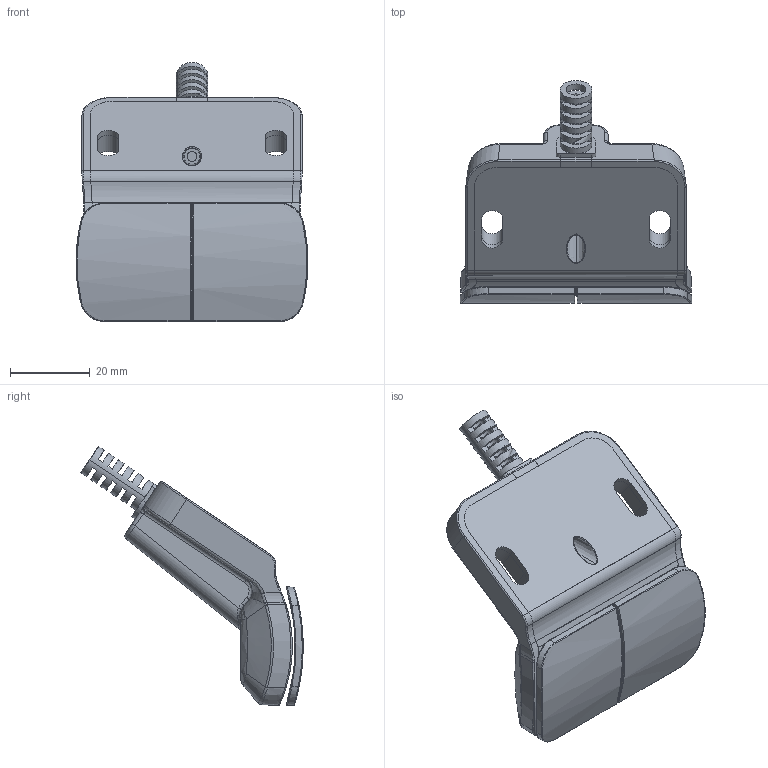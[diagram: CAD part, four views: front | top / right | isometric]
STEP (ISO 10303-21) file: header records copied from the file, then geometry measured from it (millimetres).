
FILE_DESCRIPTION((''),'2;1');
FILE_NAME('JCHT35K-0187_ASM_ASM','2021-04-08T13:04:09',('user'),('捷昌驱动'),'CREO PARAMETRIC BY PTC INC, 2018100','CREO PARAMETRIC BY PTC INC, 2018100','');
FILE_SCHEMA(('CONFIG_CONTROL_DESIGN'));
Length unit declared in the file: millimetre
Products named in the file (7): JCHT35K-0185_1; JCHT35K-0186_1; JCHT35K-0040_1; CTXK-0036_1; JCHT35K-0203_1; JCHT35K-0187_ASM_1_ASM; JCHT35K-0187_ASM_ASM
Assembly tree (6 placements, depth 3):
  JCHT35K-0187_ASM_ASM
    JCHT35K-0187_ASM_1_ASM
      JCHT35K-0185_1
      JCHT35K-0186_1
      JCHT35K-0040_1
      CTXK-0036_1
      JCHT35K-0203_1
Bounding box: 58.08 x 55.72 x 64.9 mm (x, y, z)
Volume: 35468.7 mm3; surface area: 25058.9 mm2
Topology: 5 solids, 5 shells, 372 faces, 983 edges, 614 vertices
Faces by surface type: plane 124, cylinder 100, bspline 94, cone 28, torus 14, sphere 8, extrusion 4
Entity records: 19738 total; most frequent: CARTESIAN_POINT 11162, ORIENTED_EDGE 1950, DIRECTION 1466, EDGE_CURVE 975, VERTEX_POINT 614, AXIS2_PLACEMENT_3D 534, EDGE_LOOP 413, VECTOR 398
